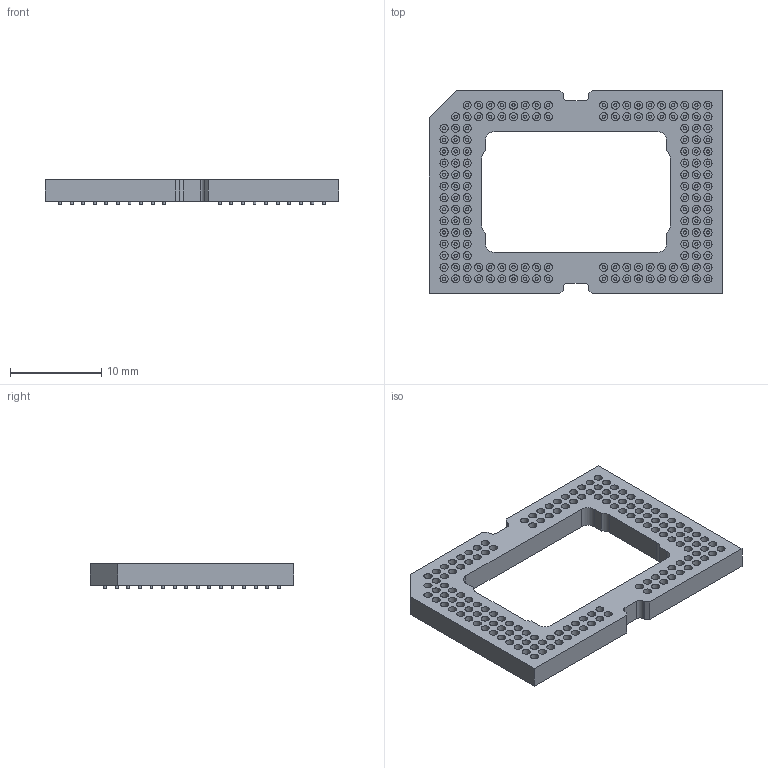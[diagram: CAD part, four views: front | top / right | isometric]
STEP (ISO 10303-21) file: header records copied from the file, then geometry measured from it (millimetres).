
FILE_DESCRIPTION((''),'2;1');
FILE_NAME('C:\Work\Series450\3DCAD\2509473-sy-socket-450-assy-L-1325-149.stp','2008-03-24T18:08:46',('a0130832'),(''),'Autodesk Inventor 2008','Autodesk Inventor 2008','');
FILE_SCHEMA(('AUTOMOTIVE_DESIGN { 1 0 10303 214 1 1 1 1 }'));
Length unit declared in the file: millimetre
Products named in the file (1): 2509473-sy-socket-450-assy-L-1325-149-SINGLE
Bounding box: 32.2 x 22.3 x 2.7 mm (x, y, z)
Volume: 951.3 mm3; surface area: 1887.7 mm2
Topology: 1 solids, 1 shells, 933 faces, 1452 edges, 968 vertices
Faces by surface type: plane 474, cylinder 459
Full cylindrical faces by diameter (mm): 0.305 x149, 0.356 x149, 0.889 x149
Entity records: 19179 total; most frequent: DIRECTION 3791, CARTESIAN_POINT 2907, ORIENTED_EDGE 2010, AXIS2_PLACEMENT_3D 1852, EDGE_LOOP 1829, EDGE_CURVE 1005, VERTEX_POINT 968, FACE_OUTER_BOUND 933
